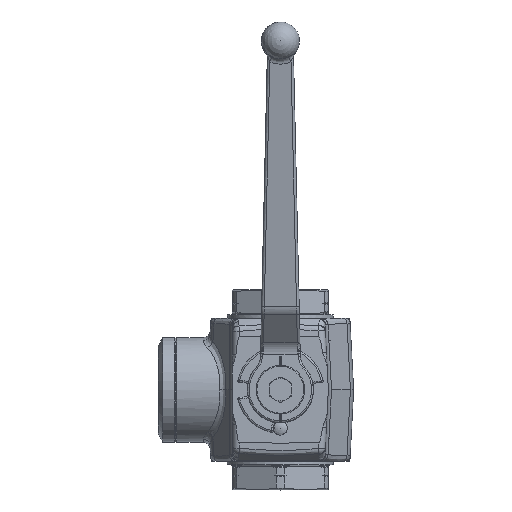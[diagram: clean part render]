
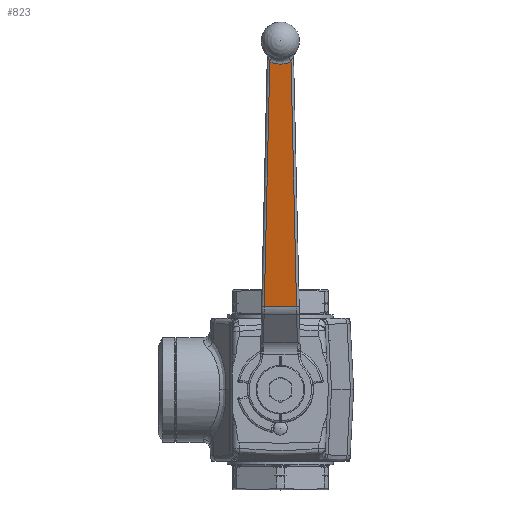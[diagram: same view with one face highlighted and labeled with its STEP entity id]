
A CAD part, top view. The second image highlights one B-rep face of the part: STEP entity #823.
In plain terms, the highlighted planar face has unit normal (0, -0.17, 0.985) as drawn and (-0.17, 0, 0.985) by its records, which use the part's own axes.
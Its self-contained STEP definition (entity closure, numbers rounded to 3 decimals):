
#823 = ADVANCED_FACE( '', ( #2032 ), #2033, .T. );
#2032 = FACE_OUTER_BOUND( '', #4051, .T. );
#2033 = PLANE( '', #4052 );
#4051 = EDGE_LOOP( '', ( #9219, #9220, #9221, #9222 ) );
#4052 = AXIS2_PLACEMENT_3D( '', #9223, #9224, #9225 );
#9219 = ORIENTED_EDGE( '', *, *, #13591, .T. );
#9220 = ORIENTED_EDGE( '', *, *, #13592, .T. );
#9221 = ORIENTED_EDGE( '', *, *, #13593, .T. );
#9222 = ORIENTED_EDGE( '', *, *, #13594, .T. );
#9223 = CARTESIAN_POINT( '', ( 45., -11.5, 32. ) );
#9224 = DIRECTION( '', ( -0.17, 0., 0.985 ) );
#9225 = DIRECTION( '', ( 0.985, 0., 0.17 ) );
#13591 = EDGE_CURVE( '', #15493, #15602, #15603, .T. );
#13592 = EDGE_CURVE( '', #15602, #15345, #15604, .F. );
#13593 = EDGE_CURVE( '', #15345, #15605, #15606, .T. );
#13594 = EDGE_CURVE( '', #15605, #15493, #15607, .F. );
#15345 = VERTEX_POINT( '', #18205 );
#15493 = VERTEX_POINT( '', #18714 );
#15602 = VERTEX_POINT( '', #18955 );
#15603 = LINE( '', #18956, #18957 );
#15604 = CIRCLE( '', #18958, 12.843 );
#15605 = VERTEX_POINT( '', #18959 );
#15606 = LINE( '', #18960, #18961 );
#15607 = LINE( '', #18962, #18963 );
#18205 = CARTESIAN_POINT( '', ( 188.213, 6.078, 56.767 ) );
#18714 = CARTESIAN_POINT( '', ( 47.713, -9.257, 32.469 ) );
#18955 = CARTESIAN_POINT( '', ( 188.213, -6.078, 56.767 ) );
#18956 = CARTESIAN_POINT( '', ( 44.952, -9.319, 31.992 ) );
#18957 = VECTOR( '', #26587, 1000. );
#18958 = AXIS2_PLACEMENT_3D( '', #26588, #26589, #26590 );
#18959 = CARTESIAN_POINT( '', ( 47.713, 9.257, 32.469 ) );
#18960 = CARTESIAN_POINT( '', ( 45.457, 9.308, 32.079 ) );
#18961 = VECTOR( '', #26591, 1000. );
#18962 = CARTESIAN_POINT( '', ( 47.713, -11.5, 32.469 ) );
#18963 = VECTOR( '', #26592, 1000. );
#26587 = DIRECTION( '', ( 0.985, 0.022, 0.17 ) );
#26588 = CARTESIAN_POINT( '', ( 199.361, 0., 58.695 ) );
#26589 = DIRECTION( '', ( -0.17, 0., 0.985 ) );
#26590 = DIRECTION( '', ( 0.985, 0., 0.17 ) );
#26591 = DIRECTION( '', ( -0.985, 0.022, -0.17 ) );
#26592 = DIRECTION( '', ( 0., 1., 0. ) );
